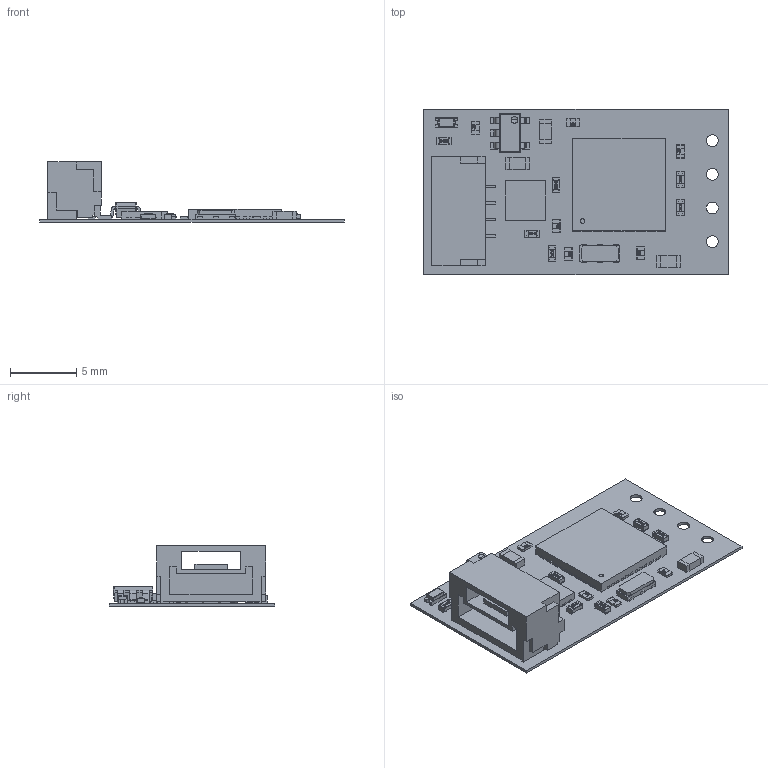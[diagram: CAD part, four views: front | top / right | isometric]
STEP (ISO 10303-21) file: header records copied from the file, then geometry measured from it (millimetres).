
FILE_DESCRIPTION(('Open CASCADE Model'),'2;1');
FILE_NAME('Open CASCADE Shape Model','2023-09-14T12:48:04',('Author'),( 'Open CASCADE'),'Open CASCADE STEP processor 6.8','Open CASCADE 6.8' ,'Unknown');
FILE_SCHEMA(('AUTOMOTIVE_DESIGN { 1 0 10303 214 1 1 1 1 }'));
Products named in the file (1): PCB
Bounding box: 23 x 12.5 x 4.57 mm (x, y, z)
Volume: 158.8 mm3; surface area: 1123.4 mm2
Topology: 46 solids, 1266 shells, 1772 faces, 7550 edges, 7046 vertices
Faces by surface type: plane 1273, bspline 258, cylinder 179, sphere 62
Full cylindrical faces by diameter (mm): 0.9 x4
Entity records: 111970 total; most frequent: CARTESIAN_POINT 44727, DIRECTION 10000, ORIENTED_EDGE 8824, EDGE_CURVE 7498, VERTEX_POINT 7046, LINE 5866, VECTOR 5866, AXIS2_PLACEMENT_3D 2067
